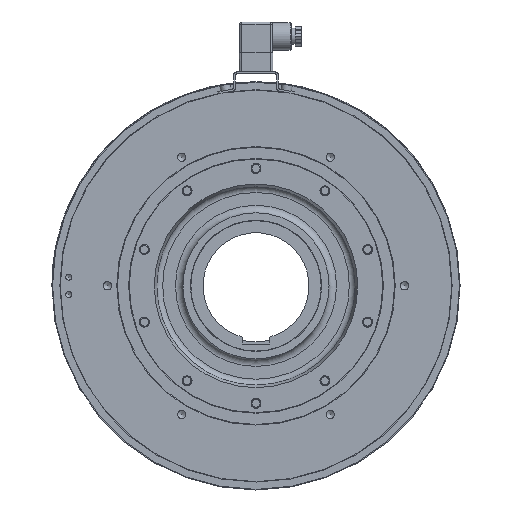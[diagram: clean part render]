
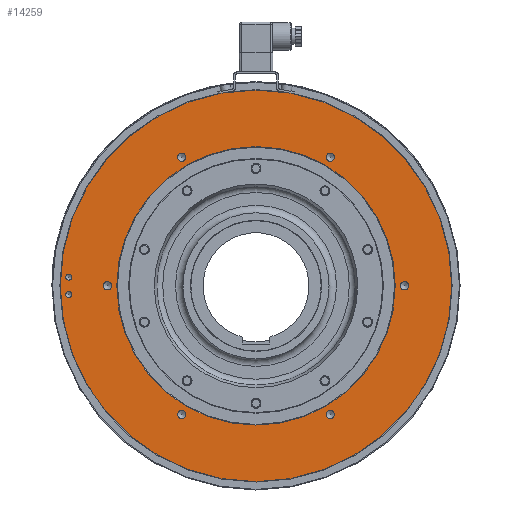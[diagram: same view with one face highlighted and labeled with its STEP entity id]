
A CAD part, left-side view. The second image highlights one B-rep face of the part: STEP entity #14259.
In plain terms, the highlighted planar face has unit normal (-1, 0, 0).
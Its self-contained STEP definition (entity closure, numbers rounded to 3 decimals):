
#292=PLANE('',#15155);
#557=FACE_BOUND('',#1665,.T.);
#558=FACE_BOUND('',#1666,.T.);
#559=FACE_BOUND('',#1667,.T.);
#560=FACE_BOUND('',#1668,.T.);
#561=FACE_BOUND('',#1669,.T.);
#562=FACE_BOUND('',#1670,.T.);
#563=FACE_BOUND('',#1671,.T.);
#564=FACE_BOUND('',#1672,.T.);
#565=FACE_BOUND('',#1673,.T.);
#883=FACE_OUTER_BOUND('',#1664,.T.);
#1664=EDGE_LOOP('',(#9631,#9632,#9633));
#1665=EDGE_LOOP('',(#9634,#9635));
#1666=EDGE_LOOP('',(#9636,#9637));
#1667=EDGE_LOOP('',(#9638,#9639));
#1668=EDGE_LOOP('',(#9640,#9641));
#1669=EDGE_LOOP('',(#9642,#9643));
#1670=EDGE_LOOP('',(#9644,#9645));
#1671=EDGE_LOOP('',(#9646,#9647));
#1672=EDGE_LOOP('',(#9648,#9649));
#1673=EDGE_LOOP('',(#9650));
#2549=CIRCLE('',#14960,156.8);
#2550=CIRCLE('',#14961,156.8);
#2625=CIRCLE('',#15107,2.459);
#2626=CIRCLE('',#15108,2.459);
#2629=CIRCLE('',#15113,2.459);
#2630=CIRCLE('',#15114,2.459);
#2633=CIRCLE('',#15119,3.324);
#2634=CIRCLE('',#15120,3.324);
#2637=CIRCLE('',#15125,3.324);
#2638=CIRCLE('',#15126,3.324);
#2641=CIRCLE('',#15131,3.324);
#2642=CIRCLE('',#15132,3.324);
#2645=CIRCLE('',#15137,3.324);
#2646=CIRCLE('',#15138,3.324);
#2649=CIRCLE('',#15143,3.324);
#2650=CIRCLE('',#15144,3.324);
#2653=CIRCLE('',#15149,3.324);
#2654=CIRCLE('',#15150,3.324);
#2657=CIRCLE('',#15154,111.5);
#2658=CIRCLE('',#15156,156.8);
#5428=VERTEX_POINT('',#21633);
#5433=VERTEX_POINT('',#21643);
#5434=VERTEX_POINT('',#21645);
#5579=VERTEX_POINT('',#22262);
#5580=VERTEX_POINT('',#22263);
#5584=VERTEX_POINT('',#22275);
#5585=VERTEX_POINT('',#22276);
#5589=VERTEX_POINT('',#22288);
#5590=VERTEX_POINT('',#22289);
#5594=VERTEX_POINT('',#22301);
#5595=VERTEX_POINT('',#22302);
#5599=VERTEX_POINT('',#22314);
#5600=VERTEX_POINT('',#22315);
#5604=VERTEX_POINT('',#22327);
#5605=VERTEX_POINT('',#22328);
#5609=VERTEX_POINT('',#22340);
#5610=VERTEX_POINT('',#22341);
#5614=VERTEX_POINT('',#22353);
#5615=VERTEX_POINT('',#22354);
#5618=VERTEX_POINT('',#22363);
#6960=EDGE_CURVE('',#5434,#5433,#2549,.T.);
#6961=EDGE_CURVE('',#5428,#5434,#2550,.T.);
#7166=EDGE_CURVE('',#5579,#5580,#2625,.T.);
#7167=EDGE_CURVE('',#5580,#5579,#2626,.T.);
#7172=EDGE_CURVE('',#5584,#5585,#2629,.T.);
#7173=EDGE_CURVE('',#5585,#5584,#2630,.T.);
#7178=EDGE_CURVE('',#5589,#5590,#2633,.T.);
#7179=EDGE_CURVE('',#5590,#5589,#2634,.T.);
#7184=EDGE_CURVE('',#5594,#5595,#2637,.T.);
#7185=EDGE_CURVE('',#5595,#5594,#2638,.T.);
#7190=EDGE_CURVE('',#5599,#5600,#2641,.T.);
#7191=EDGE_CURVE('',#5600,#5599,#2642,.T.);
#7196=EDGE_CURVE('',#5604,#5605,#2645,.T.);
#7197=EDGE_CURVE('',#5605,#5604,#2646,.T.);
#7202=EDGE_CURVE('',#5609,#5610,#2649,.T.);
#7203=EDGE_CURVE('',#5610,#5609,#2650,.T.);
#7208=EDGE_CURVE('',#5614,#5615,#2653,.T.);
#7209=EDGE_CURVE('',#5615,#5614,#2654,.T.);
#7214=EDGE_CURVE('',#5618,#5618,#2657,.T.);
#7215=EDGE_CURVE('',#5433,#5428,#2658,.T.);
#9631=ORIENTED_EDGE('',*,*,#6960,.T.);
#9632=ORIENTED_EDGE('',*,*,#7215,.T.);
#9633=ORIENTED_EDGE('',*,*,#6961,.T.);
#9634=ORIENTED_EDGE('',*,*,#7166,.T.);
#9635=ORIENTED_EDGE('',*,*,#7167,.T.);
#9636=ORIENTED_EDGE('',*,*,#7172,.T.);
#9637=ORIENTED_EDGE('',*,*,#7173,.T.);
#9638=ORIENTED_EDGE('',*,*,#7178,.T.);
#9639=ORIENTED_EDGE('',*,*,#7179,.T.);
#9640=ORIENTED_EDGE('',*,*,#7184,.T.);
#9641=ORIENTED_EDGE('',*,*,#7185,.T.);
#9642=ORIENTED_EDGE('',*,*,#7190,.T.);
#9643=ORIENTED_EDGE('',*,*,#7191,.T.);
#9644=ORIENTED_EDGE('',*,*,#7196,.T.);
#9645=ORIENTED_EDGE('',*,*,#7197,.T.);
#9646=ORIENTED_EDGE('',*,*,#7202,.T.);
#9647=ORIENTED_EDGE('',*,*,#7203,.T.);
#9648=ORIENTED_EDGE('',*,*,#7208,.T.);
#9649=ORIENTED_EDGE('',*,*,#7209,.T.);
#9650=ORIENTED_EDGE('',*,*,#7214,.F.);
#14259=ADVANCED_FACE('',(#883,#557,#558,#559,#560,#561,#562,#563,#564,#565),
#292,.T.);
#14960=AXIS2_PLACEMENT_3D('',#21646,#16909,#16910);
#14961=AXIS2_PLACEMENT_3D('',#21647,#16911,#16912);
#15107=AXIS2_PLACEMENT_3D('',#22264,#17308,#17309);
#15108=AXIS2_PLACEMENT_3D('',#22265,#17310,#17311);
#15113=AXIS2_PLACEMENT_3D('',#22277,#17322,#17323);
#15114=AXIS2_PLACEMENT_3D('',#22278,#17324,#17325);
#15119=AXIS2_PLACEMENT_3D('',#22290,#17336,#17337);
#15120=AXIS2_PLACEMENT_3D('',#22291,#17338,#17339);
#15125=AXIS2_PLACEMENT_3D('',#22303,#17350,#17351);
#15126=AXIS2_PLACEMENT_3D('',#22304,#17352,#17353);
#15131=AXIS2_PLACEMENT_3D('',#22316,#17364,#17365);
#15132=AXIS2_PLACEMENT_3D('',#22317,#17366,#17367);
#15137=AXIS2_PLACEMENT_3D('',#22329,#17378,#17379);
#15138=AXIS2_PLACEMENT_3D('',#22330,#17380,#17381);
#15143=AXIS2_PLACEMENT_3D('',#22342,#17392,#17393);
#15144=AXIS2_PLACEMENT_3D('',#22343,#17394,#17395);
#15149=AXIS2_PLACEMENT_3D('',#22355,#17406,#17407);
#15150=AXIS2_PLACEMENT_3D('',#22356,#17408,#17409);
#15154=AXIS2_PLACEMENT_3D('',#22365,#17418,#17419);
#15155=AXIS2_PLACEMENT_3D('',#22366,#17420,#17421);
#15156=AXIS2_PLACEMENT_3D('',#22367,#17422,#17423);
#16909=DIRECTION('center_axis',(-1.,0.,0.));
#16910=DIRECTION('ref_axis',(0.,1.,0.));
#16911=DIRECTION('center_axis',(-1.,0.,0.));
#16912=DIRECTION('ref_axis',(0.,1.,0.));
#17308=DIRECTION('center_axis',(1.,0.,0.));
#17309=DIRECTION('ref_axis',(0.,0.,
1.));
#17310=DIRECTION('center_axis',(1.,0.,0.));
#17311=DIRECTION('ref_axis',(0.,0.,
1.));
#17322=DIRECTION('center_axis',(1.,0.,0.));
#17323=DIRECTION('ref_axis',(0.,0.,
1.));
#17324=DIRECTION('center_axis',(1.,0.,0.));
#17325=DIRECTION('ref_axis',(0.,0.,
1.));
#17336=DIRECTION('center_axis',(1.,0.,0.));
#17337=DIRECTION('ref_axis',(0.,0.,
1.));
#17338=DIRECTION('center_axis',(1.,0.,0.));
#17339=DIRECTION('ref_axis',(0.,0.,
1.));
#17350=DIRECTION('center_axis',(1.,0.,0.));
#17351=DIRECTION('ref_axis',(0.,0.,
1.));
#17352=DIRECTION('center_axis',(1.,0.,0.));
#17353=DIRECTION('ref_axis',(0.,0.,
1.));
#17364=DIRECTION('center_axis',(1.,0.,0.));
#17365=DIRECTION('ref_axis',(0.,0.,
1.));
#17366=DIRECTION('center_axis',(1.,0.,0.));
#17367=DIRECTION('ref_axis',(0.,0.,
1.));
#17378=DIRECTION('center_axis',(1.,0.,0.));
#17379=DIRECTION('ref_axis',(0.,0.,
1.));
#17380=DIRECTION('center_axis',(1.,0.,0.));
#17381=DIRECTION('ref_axis',(0.,0.,
1.));
#17392=DIRECTION('center_axis',(1.,0.,0.));
#17393=DIRECTION('ref_axis',(0.,0.,
1.));
#17394=DIRECTION('center_axis',(1.,0.,0.));
#17395=DIRECTION('ref_axis',(0.,0.,
1.));
#17406=DIRECTION('center_axis',(1.,0.,0.));
#17407=DIRECTION('ref_axis',(0.,0.,
1.));
#17408=DIRECTION('center_axis',(1.,0.,0.));
#17409=DIRECTION('ref_axis',(0.,0.,
1.));
#17418=DIRECTION('center_axis',(-1.,0.,0.));
#17419=DIRECTION('ref_axis',(0.,-1.,0.));
#17420=DIRECTION('center_axis',(-1.,0.,0.));
#17421=DIRECTION('ref_axis',(0.,0.,
1.));
#17422=DIRECTION('center_axis',(-1.,0.,0.));
#17423=DIRECTION('ref_axis',(0.,1.,0.));
#21633=CARTESIAN_POINT('',(-21.,-27.228,154.418));
#21643=CARTESIAN_POINT('',(-21.,-156.8,0.));
#21645=CARTESIAN_POINT('',(-21.,156.8,0.));
#21646=CARTESIAN_POINT('Origin',(-21.,0.,0.));
#21647=CARTESIAN_POINT('Origin',(-21.,0.,0.));
#22262=CARTESIAN_POINT('',(-21.,150.,9.459));
#22263=CARTESIAN_POINT('',(-21.,150.,4.542));
#22264=CARTESIAN_POINT('Origin',(-21.,150.,7.));
#22265=CARTESIAN_POINT('Origin',(-21.,150.,7.));
#22275=CARTESIAN_POINT('',(-21.,150.,-4.542));
#22276=CARTESIAN_POINT('',(-21.,150.,-9.459));
#22277=CARTESIAN_POINT('Origin',(-21.,150.,-7.));
#22278=CARTESIAN_POINT('Origin',(-21.,150.,-7.));
#22288=CARTESIAN_POINT('',(-21.,59.5,106.381));
#22289=CARTESIAN_POINT('',(-21.,59.5,99.734));
#22290=CARTESIAN_POINT('Origin',(-21.,59.5,103.057));
#22291=CARTESIAN_POINT('Origin',(-21.,59.5,103.057));
#22301=CARTESIAN_POINT('',(-21.,-59.5,106.381));
#22302=CARTESIAN_POINT('',(-21.,-59.5,99.734));
#22303=CARTESIAN_POINT('Origin',(-21.,-59.5,103.057));
#22304=CARTESIAN_POINT('Origin',(-21.,-59.5,103.057));
#22314=CARTESIAN_POINT('',(-21.,-119.,3.323));
#22315=CARTESIAN_POINT('',(-21.,-119.,-3.324));
#22316=CARTESIAN_POINT('Origin',(-21.,-119.,0.));
#22317=CARTESIAN_POINT('Origin',(-21.,-119.,0.));
#22327=CARTESIAN_POINT('',(-21.,-59.5,-99.734));
#22328=CARTESIAN_POINT('',(-21.,-59.5,-106.381));
#22329=CARTESIAN_POINT('Origin',(-21.,-59.5,-103.057));
#22330=CARTESIAN_POINT('Origin',(-21.,-59.5,-103.057));
#22340=CARTESIAN_POINT('',(-21.,59.5,-99.734));
#22341=CARTESIAN_POINT('',(-21.,59.5,-106.381));
#22342=CARTESIAN_POINT('Origin',(-21.,59.5,-103.057));
#22343=CARTESIAN_POINT('Origin',(-21.,59.5,-103.057));
#22353=CARTESIAN_POINT('',(-21.,119.,3.324));
#22354=CARTESIAN_POINT('',(-21.,119.,-3.324));
#22355=CARTESIAN_POINT('Origin',(-21.,119.,0.));
#22356=CARTESIAN_POINT('Origin',(-21.,119.,0.));
#22363=CARTESIAN_POINT('',(-21.,111.5,0.));
#22365=CARTESIAN_POINT('Origin',(-21.,0.,0.));
#22366=CARTESIAN_POINT('Origin',(-21.,133.9,0.));
#22367=CARTESIAN_POINT('Origin',(-21.,0.,0.));
